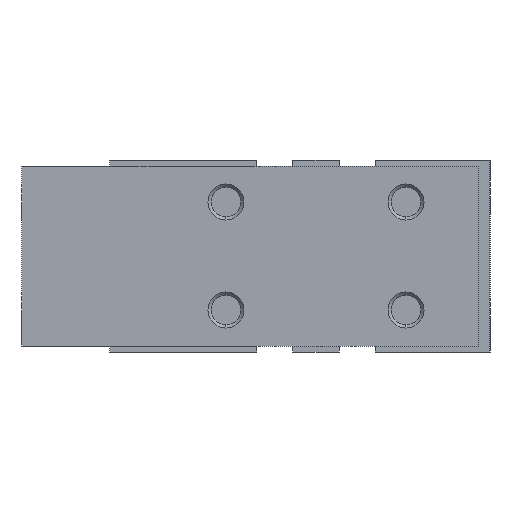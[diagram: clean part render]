
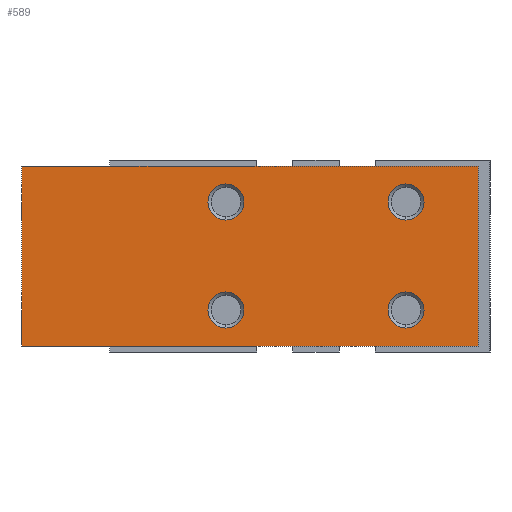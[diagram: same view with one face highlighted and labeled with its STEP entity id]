
A CAD part, left-side view. The second image highlights one B-rep face of the part: STEP entity #589.
In plain terms, the highlighted planar face has unit normal (-1, 0, 0).
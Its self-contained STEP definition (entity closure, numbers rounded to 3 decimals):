
#54 = ORIENTED_EDGE ( 'NONE', *, *, #1020, .F. ) ;
#60 = DIRECTION ( 'NONE',  ( -1., 0., 0. ) ) ;
#146 = CARTESIAN_POINT ( 'NONE',  ( -8.5, 7.5, -4.5 ) ) ;
#167 = CIRCLE ( 'NONE', #1681, 1.5 ) ;
#282 = CARTESIAN_POINT ( 'NONE',  ( -8.5, -7.5, 6. ) ) ;
#396 = DIRECTION ( 'NONE',  ( -1., 0., 0. ) ) ;
#417 = EDGE_CURVE ( 'NONE', #1978, #2468, #4113, .T. ) ;
#423 = CARTESIAN_POINT ( 'NONE',  ( -8.5, 24.5, -7.5 ) ) ;
#448 = VECTOR ( 'NONE', #2723, 1000. ) ;
#451 = PLANE ( 'NONE',  #5631 ) ;
#472 = VECTOR ( 'NONE', #5831, 1000. ) ;
#571 = CARTESIAN_POINT ( 'NONE',  ( -8.5, 7.5, 6. ) ) ;
#589 = ADVANCED_FACE ( 'NONE', ( #1979, #1921, #4826, #3909, #4799 ), #451, .F. ) ;
#755 = EDGE_CURVE ( 'NONE', #5744, #4741, #2714, .T. ) ;
#803 = DIRECTION ( 'NONE',  ( -1., 0., 0. ) ) ;
#832 = CARTESIAN_POINT ( 'NONE',  ( -8.5, -7.5, -4.5 ) ) ;
#895 = CARTESIAN_POINT ( 'NONE',  ( -8.5, 24.5, 7.5 ) ) ;
#937 = LINE ( 'NONE', #2980, #472 ) ;
#1020 = EDGE_CURVE ( 'NONE', #3727, #5353, #167, .T. ) ;
#1149 = CARTESIAN_POINT ( 'NONE',  ( -8.5, 24.5, 7.5 ) ) ;
#1206 = DIRECTION ( 'NONE',  ( -1., 0., 0. ) ) ;
#1278 = VECTOR ( 'NONE', #2272, 1000. ) ;
#1290 = VECTOR ( 'NONE', #2282, 1000. ) ;
#1292 = CARTESIAN_POINT ( 'NONE',  ( -8.5, 7.5, 3. ) ) ;
#1344 = EDGE_CURVE ( 'NONE', #4903, #3021, #3704, .T. ) ;
#1614 = DIRECTION ( 'NONE',  ( 0., 0., 1. ) ) ;
#1662 = DIRECTION ( 'NONE',  ( -1., 0., 0. ) ) ;
#1681 = AXIS2_PLACEMENT_3D ( 'NONE', #3820, #1206, #4991 ) ;
#1702 = CARTESIAN_POINT ( 'NONE',  ( -8.5, 7.5, -4.5 ) ) ;
#1706 = LINE ( 'NONE', #3639, #448 ) ;
#1754 = EDGE_CURVE ( 'NONE', #2468, #1978, #5876, .T. ) ;
#1921 = FACE_BOUND ( 'NONE', #2801, .T. ) ;
#1950 = AXIS2_PLACEMENT_3D ( 'NONE', #2795, #396, #5191 ) ;
#1971 = VERTEX_POINT ( 'NONE', #3314 ) ;
#1978 = VERTEX_POINT ( 'NONE', #2894 ) ;
#1979 = FACE_OUTER_BOUND ( 'NONE', #3081, .T. ) ;
#2013 = EDGE_LOOP ( 'NONE', ( #54, #2973 ) ) ;
#2036 = AXIS2_PLACEMENT_3D ( 'NONE', #146, #60, #1614 ) ;
#2070 = ORIENTED_EDGE ( 'NONE', *, *, #1754, .F. ) ;
#2103 = EDGE_LOOP ( 'NONE', ( #3049, #3591 ) ) ;
#2272 = DIRECTION ( 'NONE',  ( 0., 0., -1. ) ) ;
#2282 = DIRECTION ( 'NONE',  ( 0., 0., -1. ) ) ;
#2389 = ORIENTED_EDGE ( 'NONE', *, *, #755, .T. ) ;
#2406 = CARTESIAN_POINT ( 'NONE',  ( -8.5, -13.5, 7.5 ) ) ;
#2414 = CARTESIAN_POINT ( 'NONE',  ( -8.5, 7.5, 4.5 ) ) ;
#2468 = VERTEX_POINT ( 'NONE', #3422 ) ;
#2546 = CIRCLE ( 'NONE', #6199, 1.5 ) ;
#2581 = CARTESIAN_POINT ( 'NONE',  ( -8.5, -7.5, 3. ) ) ;
#2714 = LINE ( 'NONE', #4197, #1278 ) ;
#2723 = DIRECTION ( 'NONE',  ( 0., -1., 0. ) ) ;
#2793 = DIRECTION ( 'NONE',  ( -1., 0., 0. ) ) ;
#2795 = CARTESIAN_POINT ( 'NONE',  ( -8.5, -7.5, 4.5 ) ) ;
#2801 = EDGE_LOOP ( 'NONE', ( #2070, #3429 ) ) ;
#2894 = CARTESIAN_POINT ( 'NONE',  ( -8.5, 7.5, -6. ) ) ;
#2960 = CIRCLE ( 'NONE', #1950, 1.5 ) ;
#2973 = ORIENTED_EDGE ( 'NONE', *, *, #4540, .F. ) ;
#2978 = ORIENTED_EDGE ( 'NONE', *, *, #5930, .T. ) ;
#2980 = CARTESIAN_POINT ( 'NONE',  ( -8.5, 24.5, -7.5 ) ) ;
#3021 = VERTEX_POINT ( 'NONE', #3054 ) ;
#3027 = EDGE_CURVE ( 'NONE', #1971, #3460, #4951, .T. ) ;
#3049 = ORIENTED_EDGE ( 'NONE', *, *, #4882, .F. ) ;
#3054 = CARTESIAN_POINT ( 'NONE',  ( -8.5, -13.5, -7.5 ) ) ;
#3081 = EDGE_LOOP ( 'NONE', ( #2978, #4384, #5336, #2389 ) ) ;
#3185 = CIRCLE ( 'NONE', #4095, 1.5 ) ;
#3314 = CARTESIAN_POINT ( 'NONE',  ( -8.5, -7.5, -3. ) ) ;
#3422 = CARTESIAN_POINT ( 'NONE',  ( -8.5, 7.5, -3. ) ) ;
#3429 = ORIENTED_EDGE ( 'NONE', *, *, #417, .F. ) ;
#3460 = VERTEX_POINT ( 'NONE', #5668 ) ;
#3492 = EDGE_CURVE ( 'NONE', #3756, #5703, #2546, .T. ) ;
#3559 = CARTESIAN_POINT ( 'NONE',  ( -8.5, -7.5, -4.5 ) ) ;
#3575 = EDGE_CURVE ( 'NONE', #5744, #4903, #1706, .T. ) ;
#3591 = ORIENTED_EDGE ( 'NONE', *, *, #3492, .F. ) ;
#3594 = DIRECTION ( 'NONE',  ( 0., 0., 1. ) ) ;
#3603 = AXIS2_PLACEMENT_3D ( 'NONE', #1702, #4007, #4612 ) ;
#3639 = CARTESIAN_POINT ( 'NONE',  ( -8.5, 24.5, 7.5 ) ) ;
#3662 = AXIS2_PLACEMENT_3D ( 'NONE', #2414, #5798, #4332 ) ;
#3704 = LINE ( 'NONE', #4232, #1290 ) ;
#3727 = VERTEX_POINT ( 'NONE', #571 ) ;
#3756 = VERTEX_POINT ( 'NONE', #2581 ) ;
#3820 = CARTESIAN_POINT ( 'NONE',  ( -8.5, 7.5, 4.5 ) ) ;
#3860 = EDGE_LOOP ( 'NONE', ( #4253, #3953 ) ) ;
#3909 = FACE_BOUND ( 'NONE', #3860, .T. ) ;
#3953 = ORIENTED_EDGE ( 'NONE', *, *, #6243, .F. ) ;
#4007 = DIRECTION ( 'NONE',  ( -1., 0., 0. ) ) ;
#4095 = AXIS2_PLACEMENT_3D ( 'NONE', #832, #803, #5155 ) ;
#4113 = CIRCLE ( 'NONE', #3603, 1.5 ) ;
#4197 = CARTESIAN_POINT ( 'NONE',  ( -8.5, 24.5, 7.5 ) ) ;
#4232 = CARTESIAN_POINT ( 'NONE',  ( -8.5, -13.5, 7.5 ) ) ;
#4253 = ORIENTED_EDGE ( 'NONE', *, *, #3027, .F. ) ;
#4297 = DIRECTION ( 'NONE',  ( 1., 0., 0. ) ) ;
#4332 = DIRECTION ( 'NONE',  ( 0., 0., 1. ) ) ;
#4362 = CIRCLE ( 'NONE', #3662, 1.5 ) ;
#4384 = ORIENTED_EDGE ( 'NONE', *, *, #1344, .F. ) ;
#4540 = EDGE_CURVE ( 'NONE', #5353, #3727, #4362, .T. ) ;
#4612 = DIRECTION ( 'NONE',  ( 0., 0., 1. ) ) ;
#4741 = VERTEX_POINT ( 'NONE', #423 ) ;
#4742 = DIRECTION ( 'NONE',  ( 0., 1., 0. ) ) ;
#4799 = FACE_BOUND ( 'NONE', #2013, .T. ) ;
#4826 = FACE_BOUND ( 'NONE', #2103, .T. ) ;
#4882 = EDGE_CURVE ( 'NONE', #5703, #3756, #2960, .T. ) ;
#4903 = VERTEX_POINT ( 'NONE', #2406 ) ;
#4951 = CIRCLE ( 'NONE', #5568, 1.5 ) ;
#4991 = DIRECTION ( 'NONE',  ( 0., 0., 1. ) ) ;
#5155 = DIRECTION ( 'NONE',  ( 0., 0., 1. ) ) ;
#5191 = DIRECTION ( 'NONE',  ( 0., 0., 1. ) ) ;
#5336 = ORIENTED_EDGE ( 'NONE', *, *, #3575, .F. ) ;
#5353 = VERTEX_POINT ( 'NONE', #1292 ) ;
#5568 = AXIS2_PLACEMENT_3D ( 'NONE', #3559, #1662, #3594 ) ;
#5631 = AXIS2_PLACEMENT_3D ( 'NONE', #895, #4297, #4742 ) ;
#5668 = CARTESIAN_POINT ( 'NONE',  ( -8.5, -7.5, -6. ) ) ;
#5703 = VERTEX_POINT ( 'NONE', #282 ) ;
#5744 = VERTEX_POINT ( 'NONE', #1149 ) ;
#5798 = DIRECTION ( 'NONE',  ( -1., 0., 0. ) ) ;
#5831 = DIRECTION ( 'NONE',  ( 0., -1., 0. ) ) ;
#5876 = CIRCLE ( 'NONE', #2036, 1.5 ) ;
#5930 = EDGE_CURVE ( 'NONE', #4741, #3021, #937, .T. ) ;
#6148 = CARTESIAN_POINT ( 'NONE',  ( -8.5, -7.5, 4.5 ) ) ;
#6173 = DIRECTION ( 'NONE',  ( 0., 0., 1. ) ) ;
#6199 = AXIS2_PLACEMENT_3D ( 'NONE', #6148, #2793, #6173 ) ;
#6243 = EDGE_CURVE ( 'NONE', #3460, #1971, #3185, .T. ) ;
